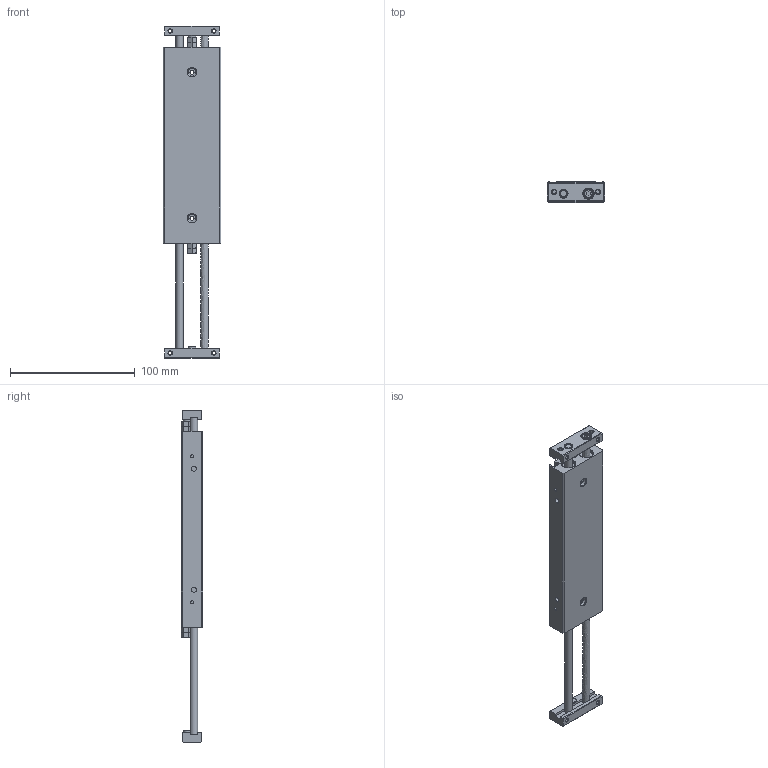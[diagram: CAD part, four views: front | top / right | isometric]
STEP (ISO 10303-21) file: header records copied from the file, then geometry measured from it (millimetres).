
FILE_DESCRIPTION((''),'2;1');
FILE_NAME('I:\3D電子目錄\氣缸\STX\STX\STX10\STX10x75.stp','2007-10-01T16:52:40',('Administrator'),(''),'Autodesk Inventor 11','Autodesk Inventor 11','');
FILE_SCHEMA(('AUTOMOTIVE_DESIGN { 1 0 10303 214 1 1 1 1 }'));
Length unit declared in the file: millimetre
Products named in the file (1): STX10
Bounding box: 46 x 17.04 x 266 mm (x, y, z)
Volume: 125273.8 mm3; surface area: 36221.5 mm2
Topology: 1 solids, 1 shells, 269 faces, 644 edges, 400 vertices
Faces by surface type: plane 135, cone 72, bspline 36, cylinder 22, torus 4
Full cylindrical faces by diameter (mm): 2.459 x2, 4.134 x2, 6 x6, 6.2 x2, 6.5 x2, 7 x2, 8 x2, 11 x2, 12 x2
Entity records: 7637 total; most frequent: CARTESIAN_POINT 2109, ORIENTED_EDGE 1082, DIRECTION 1076, EDGE_CURVE 541, AXIS2_PLACEMENT_3D 405, EDGE_LOOP 399, VERTEX_POINT 374, FACE_OUTER_BOUND 269
